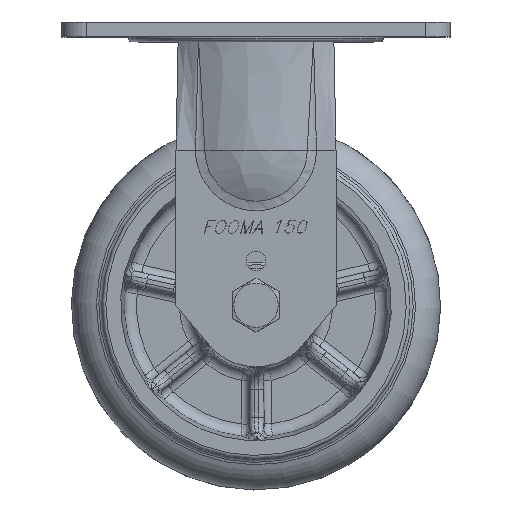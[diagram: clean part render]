
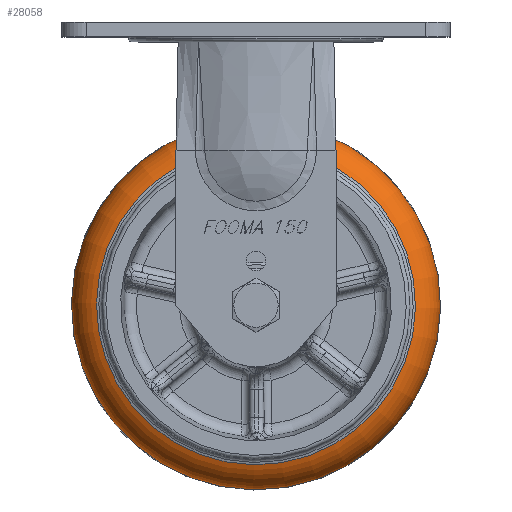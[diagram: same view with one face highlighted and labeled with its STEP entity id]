
A CAD part, top view. The second image highlights one B-rep face of the part: STEP entity #28058.
In plain terms, the highlighted toroidal (fillet/blend) face has major radius 59.865 mm and minor radius 15 mm.
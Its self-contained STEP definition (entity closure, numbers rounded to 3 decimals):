
#540=TOROIDAL_SURFACE('',#29687,59.865,15.);
#6762=FACE_BOUND('',#9385,.T.);
#7749=FACE_OUTER_BOUND('',#9384,.T.);
#9384=EDGE_LOOP('',(#22098));
#9385=EDGE_LOOP('',(#22099,#22100));
#10071=CIRCLE('',#29686,64.78);
#10072=CIRCLE('',#29688,74.85);
#10073=CIRCLE('',#29689,74.85);
#12243=VERTEX_POINT('',#44114);
#12244=VERTEX_POINT('',#44117);
#12245=VERTEX_POINT('',#44118);
#15591=EDGE_CURVE('',#12243,#12243,#10071,.T.);
#15592=EDGE_CURVE('',#12244,#12245,#10072,.T.);
#15593=EDGE_CURVE('',#12245,#12244,#10073,.T.);
#22098=ORIENTED_EDGE('',*,*,#15591,.T.);
#22099=ORIENTED_EDGE('',*,*,#15592,.F.);
#22100=ORIENTED_EDGE('',*,*,#15593,.F.);
#28058=ADVANCED_FACE('',(#7749,#6762),#540,.T.);
#29686=AXIS2_PLACEMENT_3D('',#44115,#35114,#35115);
#29687=AXIS2_PLACEMENT_3D('',#44116,#35116,#35117);
#29688=AXIS2_PLACEMENT_3D('',#44119,#35118,#35119);
#29689=AXIS2_PLACEMENT_3D('',#44120,#35120,#35121);
#35114=DIRECTION('center_axis',(0.,0.,
-1.));
#35115=DIRECTION('ref_axis',(-0.014,-1.,0.));
#35116=DIRECTION('center_axis',(0.,0.,
-1.));
#35117=DIRECTION('ref_axis',(-0.014,-1.,0.));
#35118=DIRECTION('center_axis',(0.,0.,
-1.));
#35119=DIRECTION('ref_axis',(-0.014,-1.,0.));
#35120=DIRECTION('center_axis',(0.,0.,
-1.));
#35121=DIRECTION('ref_axis',(-0.014,-1.,0.));
#44114=CARTESIAN_POINT('',(-74.137,-105.71,20.209));
#44115=CARTESIAN_POINT('Origin',(-9.363,-106.63,20.209));
#44116=CARTESIAN_POINT('Origin',(-9.363,-106.63,6.037));
#44117=CARTESIAN_POINT('',(-84.206,-105.567,6.708));
#44118=CARTESIAN_POINT('',(-8.3,-31.788,6.708));
#44119=CARTESIAN_POINT('Origin',(-9.363,-106.63,6.708));
#44120=CARTESIAN_POINT('Origin',(-9.363,-106.63,6.708));
